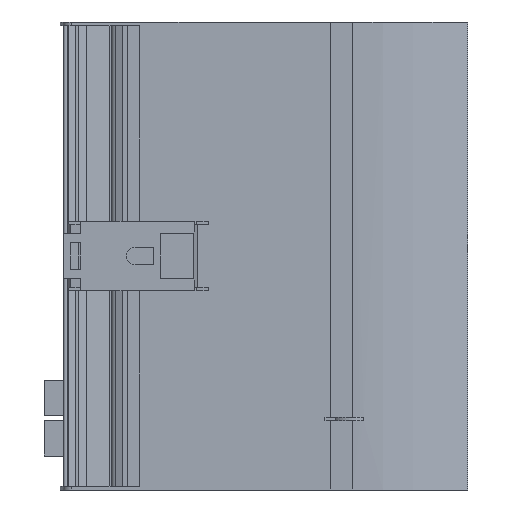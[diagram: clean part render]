
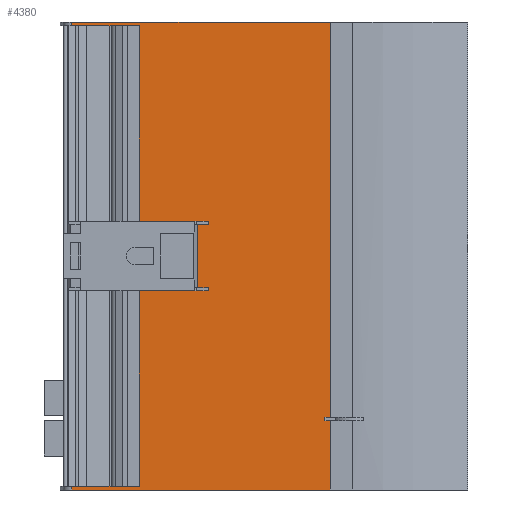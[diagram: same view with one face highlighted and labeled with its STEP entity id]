
A CAD part, front view. The second image highlights one B-rep face of the part: STEP entity #4380.
In plain terms, the highlighted planar face has unit normal (0, -1, 0) as drawn and (0, 0, -1) by its records, which use the part's own axes.
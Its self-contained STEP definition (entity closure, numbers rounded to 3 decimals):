
#1030=CARTESIAN_POINT('',(-34.181,-12.546,
-13.21));
#1040=VERTEX_POINT('',#1030);
#1070=CARTESIAN_POINT('',(-34.181,-81.946,
-13.21));
#1080=DIRECTION('',(0.,1.,0.));
#1090=VECTOR('',#1080,1.);
#1100=LINE('',#1070,#1090);
#1110=CARTESIAN_POINT('',(-34.181,-79.816,
-13.21));
#1120=VERTEX_POINT('',#1110);
#1130=EDGE_CURVE('',#1120,#1040,#1100,.T.);
#1440=CARTESIAN_POINT('',(-152.241,-79.816,
-13.21));
#1450=VERTEX_POINT('',#1440);
#1480=CARTESIAN_POINT('',(-152.241,-81.946,
-13.21));
#1490=DIRECTION('',(0.,1.,0.));
#1500=VECTOR('',#1490,1.);
#1510=LINE('',#1480,#1500);
#1520=CARTESIAN_POINT('',(-152.241,-12.546,
-13.21));
#1530=VERTEX_POINT('',#1520);
#1540=EDGE_CURVE('',#1450,#1530,#1510,.T.);
#2750=CARTESIAN_POINT('',(-151.341,-79.816,
-13.21));
#2760=VERTEX_POINT('',#2750);
#2790=CARTESIAN_POINT('',(-34.181,-79.816,
-13.21));
#2800=DIRECTION('',(-1.,0.,0.));
#2810=VECTOR('',#2800,1.);
#2820=LINE('',#2790,#2810);
#2830=EDGE_CURVE('',#2760,#1450,#2820,.T.);
#3020=CARTESIAN_POINT('',(-34.181,-12.546,
-13.21));
#3030=DIRECTION('',(0.,0.,1.));
#3040=DIRECTION('',(0.,1.,0.));
#3050=AXIS2_PLACEMENT_3D('',#3020,#3030,#3040);
#3060=PLANE('',#3050);
#3070=CARTESIAN_POINT('',(-133.851,-15.888,
-13.21));
#3080=DIRECTION('',(1.,0.,0.));
#3090=VECTOR('',#3080,1.);
#3100=LINE('',#3070,#3090);
#3110=CARTESIAN_POINT('',(-134.751,-15.888,
-13.21));
#3120=VERTEX_POINT('',#3110);
#3130=CARTESIAN_POINT('',(-133.851,-15.888,
-13.21));
#3140=VERTEX_POINT('',#3130);
#3150=EDGE_CURVE('',#3120,#3140,#3100,.T.);
#3160=ORIENTED_EDGE('',*,*,#3150,.T.);
#3170=CARTESIAN_POINT('',(-134.751,-46.181,
-13.21));
#3180=DIRECTION('',(0.,-1.,0.));
#3190=VECTOR('',#3180,1.);
#3200=LINE('',#3170,#3190);
#3210=CARTESIAN_POINT('',(-134.751,-12.903,
-13.21));
#3220=VERTEX_POINT('',#3210);
#3230=EDGE_CURVE('',#3220,#3120,#3200,.T.);
#3240=ORIENTED_EDGE('',*,*,#3230,.T.);
#3250=CARTESIAN_POINT('',(-133.851,-12.903,
-13.21));
#3260=DIRECTION('',(1.,0.,0.));
#3270=VECTOR('',#3260,1.);
#3280=LINE('',#3250,#3270);
#3290=CARTESIAN_POINT('',(-133.851,-12.903,
-13.21));
#3300=VERTEX_POINT('',#3290);
#3310=EDGE_CURVE('',#3220,#3300,#3280,.T.);
#3320=ORIENTED_EDGE('',*,*,#3310,.F.);
#3330=CARTESIAN_POINT('',(-133.851,-46.181,
-13.21));
#3340=DIRECTION('',(0.,-1.,0.));
#3350=VECTOR('',#3340,1.);
#3360=LINE('',#3330,#3350);
#3370=EDGE_CURVE('',#3300,#3140,#3360,.T.);
#3380=ORIENTED_EDGE('',*,*,#3370,.F.);
#3390=EDGE_LOOP('',(#3380,#3320,#3240,#3160));
#3400=FACE_BOUND('',#3390,.T.);
#3410=CARTESIAN_POINT('',(-151.341,-46.181,
-13.21));
#3420=DIRECTION('',(0.,1.,0.));
#3430=VECTOR('',#3420,1.);
#3440=LINE('',#3410,#3430);
#3450=CARTESIAN_POINT('',(-151.341,-62.796,
-13.21));
#3460=VERTEX_POINT('',#3450);
#3470=EDGE_CURVE('',#2760,#3460,#3440,.T.);
#3480=ORIENTED_EDGE('',*,*,#3470,.F.);
#3490=CARTESIAN_POINT('',(-34.181,-62.796,
-13.21));
#3500=DIRECTION('',(-1.,0.,0.));
#3510=VECTOR('',#3500,1.);
#3520=LINE('',#3490,#3510);
#3530=CARTESIAN_POINT('',(-101.961,-62.796,
-13.21));
#3540=VERTEX_POINT('',#3530);
#3550=EDGE_CURVE('',#3540,#3460,#3520,.T.);
#3560=ORIENTED_EDGE('',*,*,#3550,.T.);
#3570=CARTESIAN_POINT('',(-101.961,-46.181,
-13.21));
#3580=DIRECTION('',(0.,-1.,0.));
#3590=VECTOR('',#3580,1.);
#3600=LINE('',#3570,#3590);
#3610=CARTESIAN_POINT('',(-101.961,-47.546,
-13.21));
#3620=VERTEX_POINT('',#3610);
#3630=EDGE_CURVE('',#3620,#3540,#3600,.T.);
#3640=ORIENTED_EDGE('',*,*,#3630,.T.);
#3650=CARTESIAN_POINT('',(-34.181,-47.546,
-13.21));
#3660=DIRECTION('',(1.,0.,0.));
#3670=VECTOR('',#3660,1.);
#3680=LINE('',#3650,#3670);
#3690=CARTESIAN_POINT('',(-101.161,-47.546,
-13.21));
#3700=VERTEX_POINT('',#3690);
#3710=EDGE_CURVE('',#3620,#3700,#3680,.T.);
#3720=ORIENTED_EDGE('',*,*,#3710,.F.);
#3730=CARTESIAN_POINT('',(-101.161,-46.181,
-13.21));
#3740=DIRECTION('',(0.,-1.,0.));
#3750=VECTOR('',#3740,1.);
#3760=LINE('',#3730,#3750);
#3770=CARTESIAN_POINT('',(-101.161,-47.994,
-13.21));
#3780=VERTEX_POINT('',#3770);
#3790=EDGE_CURVE('',#3700,#3780,#3760,.T.);
#3800=ORIENTED_EDGE('',*,*,#3790,.F.);
#3810=CARTESIAN_POINT('',(-34.181,-47.994,
-13.21));
#3820=DIRECTION('',(1.,0.,0.));
#3830=VECTOR('',#3820,1.);
#3840=LINE('',#3810,#3830);
#3850=CARTESIAN_POINT('',(-85.261,-47.994,
-13.21));
#3860=VERTEX_POINT('',#3850);
#3870=EDGE_CURVE('',#3780,#3860,#3840,.T.);
#3880=ORIENTED_EDGE('',*,*,#3870,.F.);
#3890=CARTESIAN_POINT('',(-85.261,-46.181,
-13.21));
#3900=DIRECTION('',(0.,-1.,0.));
#3910=VECTOR('',#3900,1.);
#3920=LINE('',#3890,#3910);
#3930=CARTESIAN_POINT('',(-85.261,-47.546,
-13.21));
#3940=VERTEX_POINT('',#3930);
#3950=EDGE_CURVE('',#3940,#3860,#3920,.T.);
#3960=ORIENTED_EDGE('',*,*,#3950,.T.);
#3970=CARTESIAN_POINT('',(-34.181,-47.546,
-13.21));
#3980=DIRECTION('',(1.,0.,0.));
#3990=VECTOR('',#3980,1.);
#4000=LINE('',#3970,#3990);
#4010=CARTESIAN_POINT('',(-84.461,-47.546,
-13.21));
#4020=VERTEX_POINT('',#4010);
#4030=EDGE_CURVE('',#3940,#4020,#4000,.T.);
#4040=ORIENTED_EDGE('',*,*,#4030,.F.);
#4050=CARTESIAN_POINT('',(-84.461,-46.181,
-13.21));
#4060=DIRECTION('',(0.,1.,0.));
#4070=VECTOR('',#4060,1.);
#4080=LINE('',#4050,#4070);
#4090=CARTESIAN_POINT('',(-84.461,-62.796,
-13.21));
#4100=VERTEX_POINT('',#4090);
#4110=EDGE_CURVE('',#4100,#4020,#4080,.T.);
#4120=ORIENTED_EDGE('',*,*,#4110,.T.);
#4130=CARTESIAN_POINT('',(-35.081,-62.796,
-13.21));
#4140=VERTEX_POINT('',#4130);
#4150=EDGE_CURVE('',#4140,#4100,#3520,.T.);
#4160=ORIENTED_EDGE('',*,*,#4150,.T.);
#4170=CARTESIAN_POINT('',(-35.081,-46.181,
-13.21));
#4180=DIRECTION('',(0.,-1.,0.));
#4190=VECTOR('',#4180,1.);
#4200=LINE('',#4170,#4190);
#4210=CARTESIAN_POINT('',(-35.081,-79.816,
-13.21));
#4220=VERTEX_POINT('',#4210);
#4230=EDGE_CURVE('',#4140,#4220,#4200,.T.);
#4240=ORIENTED_EDGE('',*,*,#4230,.F.);
#4250=EDGE_CURVE('',#1120,#4220,#2820,.T.);
#4260=ORIENTED_EDGE('',*,*,#4250,.T.);
#4270=ORIENTED_EDGE('',*,*,#1130,.F.);
#4280=CARTESIAN_POINT('',(-34.181,-12.546,
-13.21));
#4290=DIRECTION('',(-1.,0.,0.));
#4300=VECTOR('',#4290,1.);
#4310=LINE('',#4280,#4300);
#4320=EDGE_CURVE('',#1040,#1530,#4310,.T.);
#4330=ORIENTED_EDGE('',*,*,#4320,.F.);
#4340=ORIENTED_EDGE('',*,*,#1540,.T.);
#4350=ORIENTED_EDGE('',*,*,#2830,.T.);
#4360=EDGE_LOOP('',(#4350,#4340,#4330,#4270,#4260,#4240,#4160,#4120,
#4040,#3960,#3880,#3800,#3720,#3640,#3560,#3480));
#4370=FACE_OUTER_BOUND('',#4360,.T.);
#4380=ADVANCED_FACE('',(#3400,#4370),#3060,.F.);
